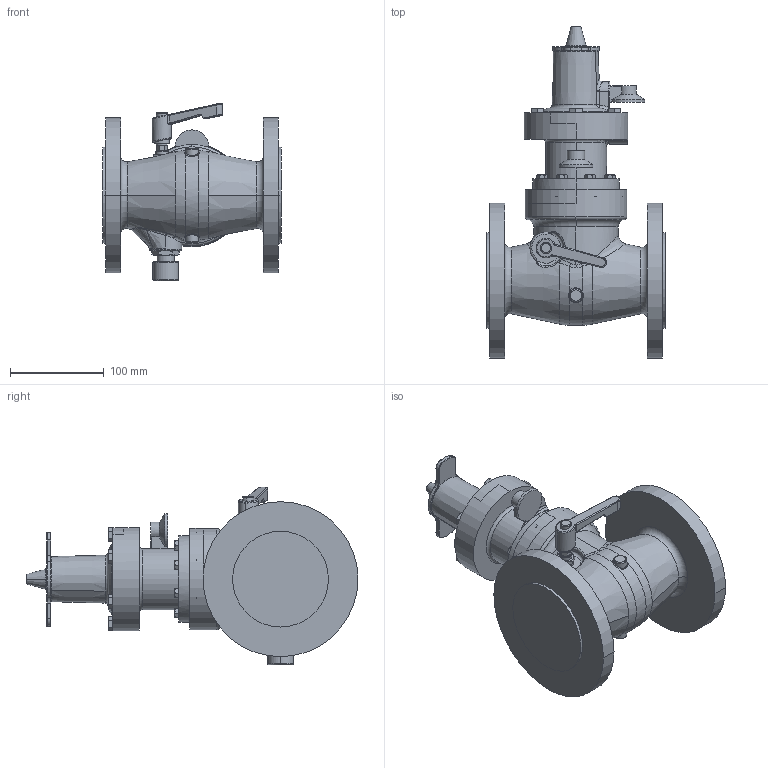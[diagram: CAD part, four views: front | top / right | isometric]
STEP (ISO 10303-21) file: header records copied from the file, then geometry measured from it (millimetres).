
FILE_DESCRIPTION((''),'2;1');
FILE_NAME('226054R2_ASM_GIPS_2-1_SW0004','2020-01-28T',('jjunior'),(''),'PRO/ENGINEER BY PARAMETRIC TECHNOLOGY CORPORATION, 2010160','PRO/ENGINEER BY PARAMETRIC TECHNOLOGY CORPORATION, 2010160','');
FILE_SCHEMA(('CONFIG_CONTROL_DESIGN'));
Length unit declared in the file: millimetre
Products named in the file (1): 226054R2_ASM_GIPS_2-1_SW0004
Bounding box: 190 x 353.5 x 189.14 mm (x, y, z)
Volume: 2773890.3 mm3; surface area: 240604.6 mm2
Topology: 2 solids, 3 shells, 1046 faces, 2586 edges, 1597 vertices
Faces by surface type: plane 544, cylinder 181, cone 157, bspline 89, torus 63, sphere 12
Entity records: 41895 total; most frequent: CARTESIAN_POINT 17982, ORIENTED_EDGE 5136, DIRECTION 4696, EDGE_CURVE 2568, AXIS2_PLACEMENT_3D 1644, VERTEX_POINT 1597, VECTOR 1408, LINE 1408
